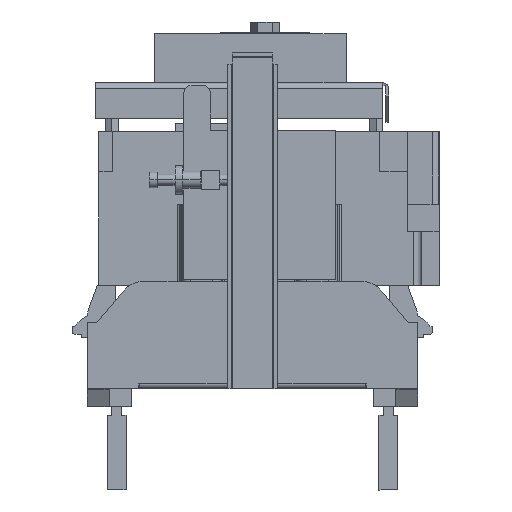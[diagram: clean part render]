
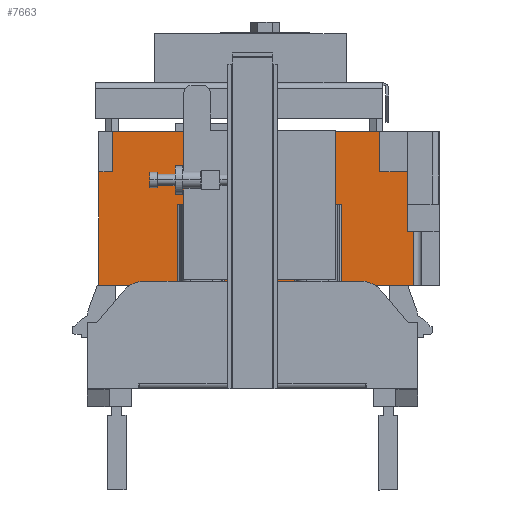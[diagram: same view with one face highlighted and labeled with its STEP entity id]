
A CAD part, left-side view. The second image highlights one B-rep face of the part: STEP entity #7663.
In plain terms, the highlighted planar face has unit normal (-1, 0, 0).
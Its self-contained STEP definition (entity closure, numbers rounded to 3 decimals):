
#10 = CARTESIAN_POINT ( 'NONE',  ( -225., 346.2, 120.35 ) ) ;
#826 = CARTESIAN_POINT ( 'NONE',  ( -225., 361., 0. ) ) ;
#875 = VERTEX_POINT ( 'NONE', #8026 ) ;
#885 = CARTESIAN_POINT ( 'NONE',  ( -225., 103.86, 86. ) ) ;
#931 = ORIENTED_EDGE ( 'NONE', *, *, #8729, .F. ) ;
#1256 = EDGE_CURVE ( 'NONE', #5913, #20717, #17282, .T. ) ;
#1303 = ORIENTED_EDGE ( 'NONE', *, *, #7820, .F. ) ;
#1399 = CARTESIAN_POINT ( 'NONE',  ( -225., 227.378, 86. ) ) ;
#1464 = LINE ( 'NONE', #26668, #13373 ) ;
#1512 = VERTEX_POINT ( 'NONE', #19398 ) ;
#1755 = LINE ( 'NONE', #3306, #24660 ) ;
#1858 = CARTESIAN_POINT ( 'NONE',  ( -225., 227.378, 0. ) ) ;
#2288 = CARTESIAN_POINT ( 'NONE',  ( -225., 346.2, 162.85 ) ) ;
#2327 = LINE ( 'NONE', #1399, #25249 ) ;
#2457 = CARTESIAN_POINT ( 'NONE',  ( -225., 63.042, 162.85 ) ) ;
#2548 = CARTESIAN_POINT ( 'NONE',  ( -225., 153.728, 86. ) ) ;
#2559 = ORIENTED_EDGE ( 'NONE', *, *, #1256, .F. ) ;
#2563 = EDGE_LOOP ( 'NONE', ( #16482, #20041, #14373, #25559, #5027, #10409, #16353, #13300, #1303, #16642, #931, #25338, #12340, #10298, #8544, #2559, #11247, #8809 ) ) ;
#2665 = CARTESIAN_POINT ( 'NONE',  ( -225., 361., 0. ) ) ;
#3013 = LINE ( 'NONE', #23672, #25912 ) ;
#3147 = VERTEX_POINT ( 'NONE', #22716 ) ;
#3173 = LINE ( 'NONE', #10, #26056 ) ;
#3306 = CARTESIAN_POINT ( 'NONE',  ( -225., 33.677, 57.45 ) ) ;
#3874 = VECTOR ( 'NONE', #5426, 1000. ) ;
#3981 = DIRECTION ( 'NONE',  ( 0., 0., -1. ) ) ;
#4377 = LINE ( 'NONE', #26267, #20653 ) ;
#4574 = CARTESIAN_POINT ( 'NONE',  ( -225., 27.25, 0. ) ) ;
#4660 = EDGE_CURVE ( 'NONE', #11981, #25069, #6635, .T. ) ;
#4938 = EDGE_CURVE ( 'NONE', #12069, #875, #16708, .T. ) ;
#5027 = ORIENTED_EDGE ( 'NONE', *, *, #22439, .F. ) ;
#5426 = DIRECTION ( 'NONE',  ( 0., 0., -1. ) ) ;
#5913 = VERTEX_POINT ( 'NONE', #17971 ) ;
#5993 = DIRECTION ( 'NONE',  ( 0., 0.001, -1. ) ) ;
#5998 = EDGE_CURVE ( 'NONE', #24974, #26244, #11768, .T. ) ;
#6210 = LINE ( 'NONE', #23928, #23189 ) ;
#6294 = CARTESIAN_POINT ( 'NONE',  ( -225., 63.042, 120.35 ) ) ;
#6558 = VERTEX_POINT ( 'NONE', #2288 ) ;
#6610 = CARTESIAN_POINT ( 'NONE',  ( -225., 0., 0. ) ) ;
#6635 = LINE ( 'NONE', #12930, #17756 ) ;
#6877 = DIRECTION ( 'NONE',  ( 0., -1., 0. ) ) ;
#7102 = DIRECTION ( 'NONE',  ( 0., 0., -1. ) ) ;
#7325 = CARTESIAN_POINT ( 'NONE',  ( -225., 0., 0. ) ) ;
#7439 = VERTEX_POINT ( 'NONE', #826 ) ;
#7663 = ADVANCED_FACE ( 'NONE', ( #19225 ), #15097, .F. ) ;
#7820 = EDGE_CURVE ( 'NONE', #8845, #6558, #3173, .T. ) ;
#8026 = CARTESIAN_POINT ( 'NONE',  ( -225., 103.86, 86. ) ) ;
#8146 = CARTESIAN_POINT ( 'NONE',  ( -225., 33.542, 162.85 ) ) ;
#8171 = DIRECTION ( 'NONE',  ( 0., -1., 0. ) ) ;
#8544 = ORIENTED_EDGE ( 'NONE', *, *, #14148, .T. ) ;
#8580 = EDGE_CURVE ( 'NONE', #25069, #12192, #18441, .T. ) ;
#8729 = EDGE_CURVE ( 'NONE', #7439, #11747, #19484, .T. ) ;
#8809 = ORIENTED_EDGE ( 'NONE', *, *, #4938, .T. ) ;
#8845 = VERTEX_POINT ( 'NONE', #27481 ) ;
#8938 = DIRECTION ( 'NONE',  ( 0., 0., 1. ) ) ;
#9653 = DIRECTION ( 'NONE',  ( 0., 1., 0. ) ) ;
#9659 = CARTESIAN_POINT ( 'NONE',  ( -225., 277.247, 0. ) ) ;
#9796 = LINE ( 'NONE', #885, #3874 ) ;
#10061 = CARTESIAN_POINT ( 'NONE',  ( -225., 153.728, 86. ) ) ;
#10298 = ORIENTED_EDGE ( 'NONE', *, *, #14600, .T. ) ;
#10332 = DIRECTION ( 'NONE',  ( 0., 0., -1. ) ) ;
#10409 = ORIENTED_EDGE ( 'NONE', *, *, #17146, .F. ) ;
#10685 = DIRECTION ( 'NONE',  ( 0., 0., -1. ) ) ;
#11043 = CARTESIAN_POINT ( 'NONE',  ( -225., 361., 120.35 ) ) ;
#11247 = ORIENTED_EDGE ( 'NONE', *, *, #18847, .F. ) ;
#11747 = VERTEX_POINT ( 'NONE', #11043 ) ;
#11768 = LINE ( 'NONE', #16069, #17669 ) ;
#11823 = LINE ( 'NONE', #27679, #16335 ) ;
#11940 = VECTOR ( 'NONE', #5993, 1000. ) ;
#11981 = VERTEX_POINT ( 'NONE', #18574 ) ;
#12069 = VERTEX_POINT ( 'NONE', #10061 ) ;
#12192 = VERTEX_POINT ( 'NONE', #17235 ) ;
#12269 = VECTOR ( 'NONE', #20335, 1000. ) ;
#12340 = ORIENTED_EDGE ( 'NONE', *, *, #5998, .F. ) ;
#12360 = DIRECTION ( 'NONE',  ( 0., -1., 0. ) ) ;
#12863 = CARTESIAN_POINT ( 'NONE',  ( -225., 0., 0. ) ) ;
#12930 = CARTESIAN_POINT ( 'NONE',  ( -225., 27.25, 70.959 ) ) ;
#12938 = VECTOR ( 'NONE', #24881, 1000. ) ;
#12990 = VERTEX_POINT ( 'NONE', #2457 ) ;
#13300 = ORIENTED_EDGE ( 'NONE', *, *, #14702, .F. ) ;
#13373 = VECTOR ( 'NONE', #6877, 1000. ) ;
#13428 = DIRECTION ( 'NONE',  ( 0., 1., 0. ) ) ;
#13865 = VERTEX_POINT ( 'NONE', #6294 ) ;
#14073 = EDGE_CURVE ( 'NONE', #13865, #12990, #11823, .T. ) ;
#14148 = EDGE_CURVE ( 'NONE', #3147, #20717, #2327, .T. ) ;
#14373 = ORIENTED_EDGE ( 'NONE', *, *, #4660, .F. ) ;
#14542 = DIRECTION ( 'NONE',  ( 0., -1., 0. ) ) ;
#14600 = EDGE_CURVE ( 'NONE', #24974, #3147, #3013, .T. ) ;
#14681 = VECTOR ( 'NONE', #13428, 1000. ) ;
#14702 = EDGE_CURVE ( 'NONE', #6558, #12990, #6210, .T. ) ;
#15097 = PLANE ( 'NONE',  #28510 ) ;
#16069 = CARTESIAN_POINT ( 'NONE',  ( -225., 277.247, 86. ) ) ;
#16335 = VECTOR ( 'NONE', #23394, 1000. ) ;
#16353 = ORIENTED_EDGE ( 'NONE', *, *, #14073, .T. ) ;
#16482 = ORIENTED_EDGE ( 'NONE', *, *, #25709, .T. ) ;
#16593 = VECTOR ( 'NONE', #25075, 1000. ) ;
#16642 = ORIENTED_EDGE ( 'NONE', *, *, #28582, .F. ) ;
#16708 = LINE ( 'NONE', #27756, #17402 ) ;
#17091 = VECTOR ( 'NONE', #9653, 1000. ) ;
#17146 = EDGE_CURVE ( 'NONE', #13865, #1512, #1464, .T. ) ;
#17235 = CARTESIAN_POINT ( 'NONE',  ( -225., 103.86, 0. ) ) ;
#17282 = LINE ( 'NONE', #22883, #16593 ) ;
#17298 = DIRECTION ( 'NONE',  ( 1., 0., 0. ) ) ;
#17376 = DIRECTION ( 'NONE',  ( 0., -1., 0. ) ) ;
#17402 = VECTOR ( 'NONE', #12360, 1000. ) ;
#17669 = VECTOR ( 'NONE', #7102, 1000. ) ;
#17756 = VECTOR ( 'NONE', #10685, 1000. ) ;
#17971 = CARTESIAN_POINT ( 'NONE',  ( -225., 153.728, 0. ) ) ;
#18441 = LINE ( 'NONE', #7325, #17091 ) ;
#18494 = LINE ( 'NONE', #8146, #11940 ) ;
#18574 = CARTESIAN_POINT ( 'NONE',  ( -225., 27.25, 57.45 ) ) ;
#18847 = EDGE_CURVE ( 'NONE', #12069, #5913, #19522, .T. ) ;
#19225 = FACE_OUTER_BOUND ( 'NONE', #2563, .T. ) ;
#19398 = CARTESIAN_POINT ( 'NONE',  ( -225., 33.596, 120.35 ) ) ;
#19484 = LINE ( 'NONE', #2665, #12938 ) ;
#19522 = LINE ( 'NONE', #2548, #12269 ) ;
#20041 = ORIENTED_EDGE ( 'NONE', *, *, #8580, .F. ) ;
#20131 = CARTESIAN_POINT ( 'NONE',  ( -225., 33.677, 57.45 ) ) ;
#20335 = DIRECTION ( 'NONE',  ( 0., 0., -1. ) ) ;
#20495 = LINE ( 'NONE', #6610, #14681 ) ;
#20653 = VECTOR ( 'NONE', #24119, 1000. ) ;
#20717 = VERTEX_POINT ( 'NONE', #1858 ) ;
#22439 = EDGE_CURVE ( 'NONE', #1512, #25602, #18494, .T. ) ;
#22716 = CARTESIAN_POINT ( 'NONE',  ( -225., 227.378, 86. ) ) ;
#22883 = CARTESIAN_POINT ( 'NONE',  ( -225., 0., 0. ) ) ;
#23189 = VECTOR ( 'NONE', #17376, 1000. ) ;
#23213 = EDGE_CURVE ( 'NONE', #26244, #7439, #20495, .T. ) ;
#23394 = DIRECTION ( 'NONE',  ( 0., 0., 1. ) ) ;
#23672 = CARTESIAN_POINT ( 'NONE',  ( -225., 277.247, 86. ) ) ;
#23928 = CARTESIAN_POINT ( 'NONE',  ( -225., 361., 162.85 ) ) ;
#24078 = CARTESIAN_POINT ( 'NONE',  ( -225., 277.247, 86. ) ) ;
#24119 = DIRECTION ( 'NONE',  ( 0., -1., 0. ) ) ;
#24660 = VECTOR ( 'NONE', #14542, 1000. ) ;
#24776 = EDGE_CURVE ( 'NONE', #25602, #11981, #1755, .T. ) ;
#24881 = DIRECTION ( 'NONE',  ( 0., 0., 1. ) ) ;
#24974 = VERTEX_POINT ( 'NONE', #24078 ) ;
#25069 = VERTEX_POINT ( 'NONE', #4574 ) ;
#25075 = DIRECTION ( 'NONE',  ( 0., 1., 0. ) ) ;
#25249 = VECTOR ( 'NONE', #10332, 1000. ) ;
#25338 = ORIENTED_EDGE ( 'NONE', *, *, #23213, .F. ) ;
#25559 = ORIENTED_EDGE ( 'NONE', *, *, #24776, .F. ) ;
#25602 = VERTEX_POINT ( 'NONE', #20131 ) ;
#25709 = EDGE_CURVE ( 'NONE', #875, #12192, #9796, .T. ) ;
#25912 = VECTOR ( 'NONE', #8171, 1000. ) ;
#26056 = VECTOR ( 'NONE', #8938, 1000. ) ;
#26244 = VERTEX_POINT ( 'NONE', #9659 ) ;
#26267 = CARTESIAN_POINT ( 'NONE',  ( -225., 361., 120.35 ) ) ;
#26668 = CARTESIAN_POINT ( 'NONE',  ( -225., 33.542, 120.35 ) ) ;
#27481 = CARTESIAN_POINT ( 'NONE',  ( -225., 346.2, 120.35 ) ) ;
#27679 = CARTESIAN_POINT ( 'NONE',  ( -225., 63.042, 120.35 ) ) ;
#27756 = CARTESIAN_POINT ( 'NONE',  ( -225., 153.728, 86. ) ) ;
#28510 = AXIS2_PLACEMENT_3D ( 'NONE', #12863, #17298, #3981 ) ;
#28582 = EDGE_CURVE ( 'NONE', #11747, #8845, #4377, .T. ) ;
